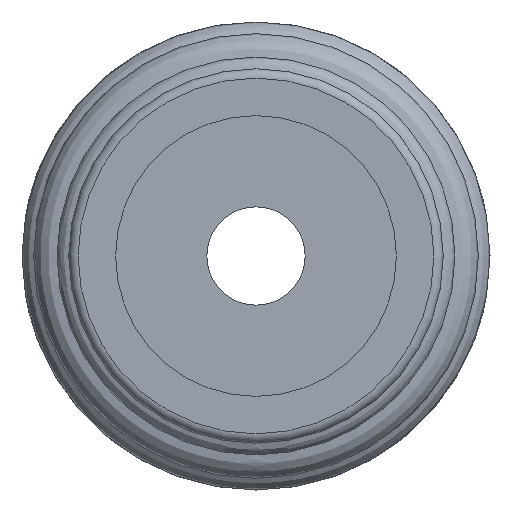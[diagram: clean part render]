
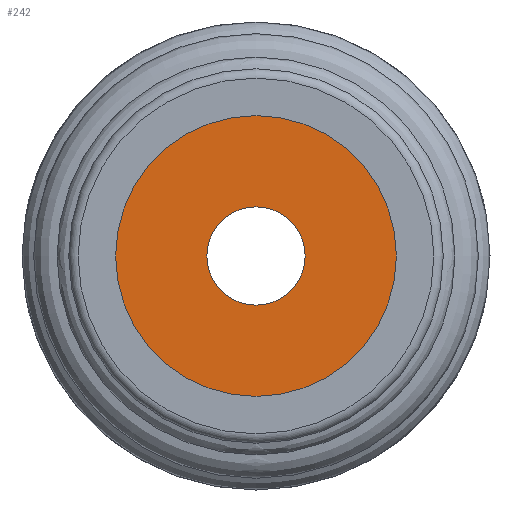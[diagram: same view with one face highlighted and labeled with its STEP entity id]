
A CAD part, left-side view. The second image highlights one B-rep face of the part: STEP entity #242.
In plain terms, the highlighted free-form (B-spline) face has degree [1, 1] with [2, 2] control points.
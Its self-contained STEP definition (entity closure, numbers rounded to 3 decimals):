
#211=CARTESIAN_POINT('',(-25.6,-3.,0.0));
#212=VERTEX_POINT('',#211);
#213=CARTESIAN_POINT('',(-25.6,0.0,0.0));
#214=DIRECTION('',(-1.0,0.0,0.0));
#215=DIRECTION('',(0.0,-1.0,0.0));
#216=AXIS2_PLACEMENT_3D('',#213,#214,#215);
#217=CIRCLE('',#216,3.);
#218=EDGE_CURVE('',#212,#212,#217,.T.);
#223=CARTESIAN_POINT('',(-25.6,3.,3.));
#224=CARTESIAN_POINT('',(-25.6,-3.,3.));
#225=CARTESIAN_POINT('',(-25.6,3.,-3.));
#226=CARTESIAN_POINT('',(-25.6,-3.,-3.));
#227=B_SPLINE_SURFACE_WITH_KNOTS('',1,1,((#223,#225),(#224,#226)),.UNSPECIFIED.,.F.,.F.,.U.,(2,2),(2,2),(0.0,6.),(0.0,6.),.UNSPECIFIED.);
#228=ORIENTED_EDGE('',*,*,#218,.T.);
#229=EDGE_LOOP('',(#228));
#230=FACE_OUTER_BOUND('',#229,.T.);
#231=CARTESIAN_POINT('',(-25.6,0.,1.05));
#232=VERTEX_POINT('',#231);
#233=CARTESIAN_POINT('',(-25.6,0.0,0.0));
#234=DIRECTION('',(-1.0,0.0,0.0));
#235=DIRECTION('',(0.0,0.0,-1.0));
#236=AXIS2_PLACEMENT_3D('',#233,#234,#235);
#237=CIRCLE('',#236,1.05);
#238=EDGE_CURVE('',#232,#232,#237,.T.);
#239=ORIENTED_EDGE('',*,*,#238,.F.);
#240=EDGE_LOOP('',(#239));
#241=FACE_BOUND('',#240,.T.);
#242=ADVANCED_FACE('',(#230,#241),#227,.F.);
